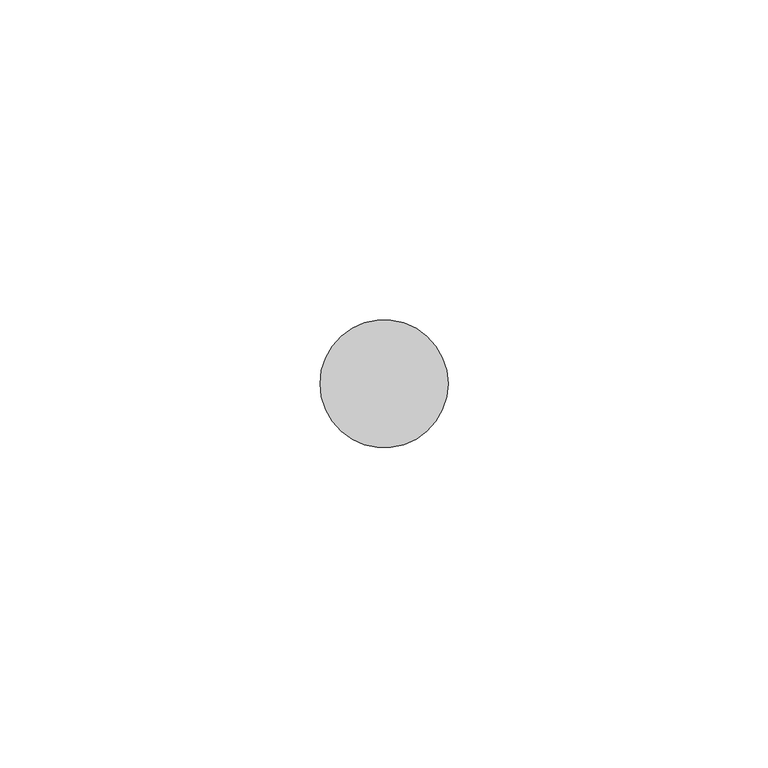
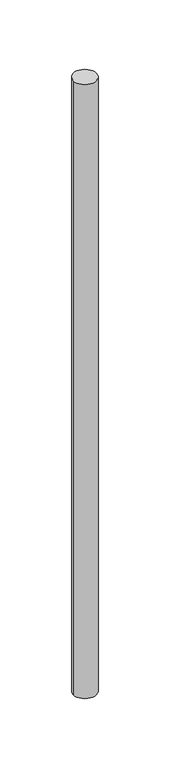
"""IFC4 building model written with IfcOpenShell, lengths in millimetres: member geometry, Импост круглого сечения : Радиус 25 мм."""

from ifc_helpers import new_model, si_unit, point, frame, frame_2d, origin, place, context, project, spatial, circle_curve, trimmed, segment, composite_curve, outline, extrude, source, transform, mapped, element, save


def member_4ce70233(model_context):
    return source(origin(), model_context, "Body", "SweptSolid", [
        extrude(outline(composite_curve([segment(trimmed(circle_curve(frame_2d((-10.0, 0.0)), 10.0), [point((0.0, 0.0))], [point((-20.0, 0.0))], False, "CARTESIAN"), True, "CONTINUOUS"), segment(trimmed(circle_curve(frame_2d((-10.0, 0.0)), 10.0), [point((-20.0, 0.0))], [point((0.0, 0.0))], False, "CARTESIAN"), True, "CONTINUOUS")], self_intersect=False)), frame((0.0, 0.0, -562.6517204), z_axis=(0.0, 0.0, 1.0), x_axis=(1.0, 0.0, 0.0)), (0.0, 0.0, 1.0), 562.6517204),
    ])


if __name__ == "__main__":
    model = new_model("IFC4")
    model_context = context("Model", 3, world=origin())
    ifc_project = project(units=[si_unit("LENGTHUNIT", "METRE", prefix="MILLI")], contexts=[model_context])
    site = spatial("IfcSite", under=ifc_project)
    building = spatial("IfcBuilding", under=site)
    placement = place(None, origin())
    member_shape = member_4ce70233(model_context)
    element("IfcMember", 1, ObjectType="Импост круглого сечения : Радиус 25 мм", at=placement, inside=building, context=model_context, shape_type="MappedRepresentation", body=[
        mapped(member_shape, transform((0.0, 0.0, 0.0), x_axis=(1.0, 0.0, 0.0), y_axis=(0.0, 1.0, 0.0), z_axis=(0.0, 0.0, 1.0))),
    ])
    save(model, "model.ifc")
